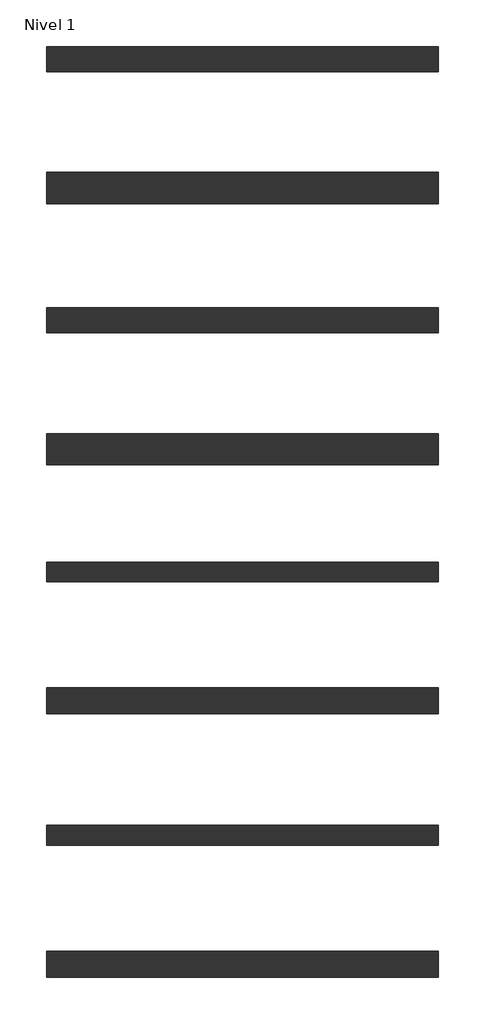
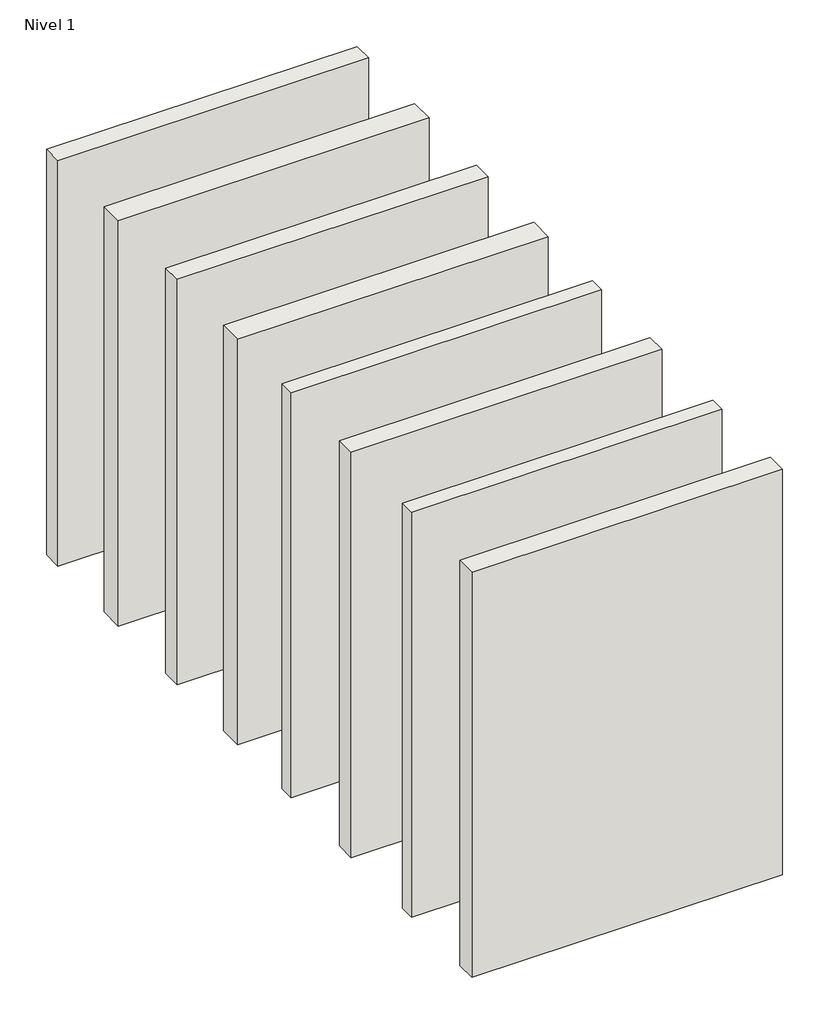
# One storey: 8 walls.
"""IFC4 building model written with IfcOpenShell, lengths in millimetres."""

from ifc_helpers import new_model, si_unit, origin, origin_with_axes, place, context, project, spatial, polyline, outline, extrude, element, save

model = new_model("IFC4")

# Units and contexts
model_context = context("Model", 3, world=origin())
ifc_project = project(units=[si_unit("LENGTHUNIT", "METRE", prefix="MILLI")], contexts=[model_context])

# Site, building, storey
site = spatial("IfcSite", under=ifc_project)
building = spatial("IfcBuilding", under=site)
storey = spatial("IfcBuildingStorey", under=building, Name="Nivel 1", Elevation=0.0)

# Walls
placement = place(None, origin())
element("IfcWall", 1, ObjectType="Sistema Isover-Placo® de tabique simple\xa0High-Stil® 120/70 a 900 mm con LM Ruller - 48 dBA", at=placement, inside=storey, context=model_context, shape_type="SweptSolid", body=[
    extrude(outline(polyline([(1422.0051279, -2010.0445576), (-462.9948721, -2010.0445576), (-462.9948721, -1890.0445576), (1422.0051279, -1890.0445576), (1422.0051279, -2010.0445576)])), origin_with_axes(), (0.0, 0.0, 1.0), 2600.0),
])
element("IfcWall", 2, ObjectType="Sistema Isover-Placo® de tabique simple \xa0High-Stil® 150/100 a 900 mm con LM Ruller - 50 dBA", at=placement, inside=storey, context=model_context, shape_type="SweptSolid", body=[
    extrude(outline(polyline([(1422.0051279, -2645.0445576), (-462.9948721, -2645.0445576), (-462.9948721, -2495.0445576), (1422.0051279, -2495.0445576), (1422.0051279, -2645.0445576)])), origin_with_axes(), (0.0, 0.0, 1.0), 2600.0),
])
element("IfcWall", 3, ObjectType="Sistema Isover-Placo® de tabique simple \xa0High-Stil® 120/70H a 900 mm con LM Ruller - 48 dBA", at=placement, inside=storey, context=model_context, shape_type="SweptSolid", body=[
    extrude(outline(polyline([(1422.0051279, -3265.0445576), (-462.9948721, -3265.0445576), (-462.9948721, -3145.0445576), (1422.0051279, -3145.0445576), (1422.0051279, -3265.0445576)])), origin_with_axes(), (0.0, 0.0, 1.0), 2600.0),
])
element("IfcWall", 4, ObjectType="Sistema Isover-Placo® de tabique simple\xa0High-Stil® 150/100H a 900 mm con LM Ruller - 50 dBA", at=placement, inside=storey, context=model_context, shape_type="SweptSolid", body=[
    extrude(outline(polyline([(1422.0051279, -3900.0445576), (-462.9948721, -3900.0445576), (-462.9948721, -3750.0445576), (1422.0051279, -3750.0445576), (1422.0051279, -3900.0445576)])), origin_with_axes(), (0.0, 0.0, 1.0), 2600.0),
])
element("IfcWall", 5, ObjectType="Sistema Isover-Placo® de trasdosado simple High-Stil® 95/70 a 900 mm con LM Ruller", at=placement, inside=storey, context=model_context, shape_type="SweptSolid", body=[
    extrude(outline(polyline([(1422.0051279, -4462.5445576), (-462.9948721, -4462.5445576), (-462.9948721, -4367.5445576), (1422.0051279, -4367.5445576), (1422.0051279, -4462.5445576)])), origin_with_axes(), (0.0, 0.0, 1.0), 2600.0),
])
element("IfcWall", 6, ObjectType="Sistema Isover-Placo® de trasdosado simple High-Stil® 125/100 a 900 mm con LM Ruller", at=placement, inside=storey, context=model_context, shape_type="SweptSolid", body=[
    extrude(outline(polyline([(1422.0051279, -5095.0445576), (-462.9948721, -5095.0445576), (-462.9948721, -4970.0445576), (1422.0051279, -4970.0445576), (1422.0051279, -5095.0445576)])), origin_with_axes(), (0.0, 0.0, 1.0), 2600.0),
])
element("IfcWall", 7, ObjectType="Sistema Isover-Placo® de trasdosado simple High-Stil® 95/70H a 900 mm con LM Ruller", at=placement, inside=storey, context=model_context, shape_type="SweptSolid", body=[
    extrude(outline(polyline([(1422.0051279, -5727.5445576), (-462.9948721, -5727.5445576), (-462.9948721, -5632.5445576), (1422.0051279, -5632.5445576), (1422.0051279, -5727.5445576)])), origin_with_axes(), (0.0, 0.0, 1.0), 2600.0),
])
element("IfcWall", 8, ObjectType="Sistema Isover-Placo® de trasdosado simple High-Stil® 125/100H a 900 mm con LM Ruller", at=placement, inside=storey, context=model_context, shape_type="SweptSolid", body=[
    extrude(outline(polyline([(1422.0051279, -6362.5445576), (-462.9948721, -6362.5445576), (-462.9948721, -6237.5445576), (1422.0051279, -6237.5445576), (1422.0051279, -6362.5445576)])), origin_with_axes(), (0.0, 0.0, 1.0), 2600.0),
])

save(model, "model.ifc")
